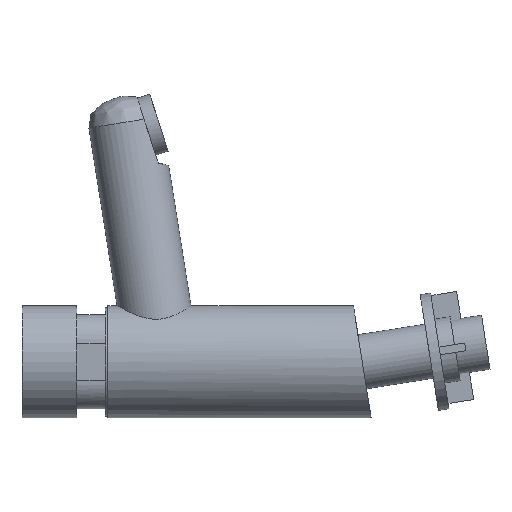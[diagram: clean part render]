
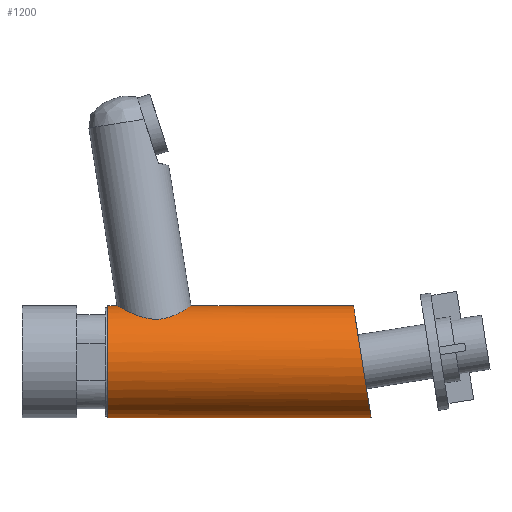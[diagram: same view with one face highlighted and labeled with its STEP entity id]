
A CAD part, left-side view. The second image highlights one B-rep face of the part: STEP entity #1200.
In plain terms, the highlighted cylindrical face has radius 21.5 mm (diameter 43 mm), a full revolution.
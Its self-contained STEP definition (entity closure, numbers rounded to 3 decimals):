
#22=FACE_BOUND('',#159,.T.);
#27=B_SPLINE_CURVE_WITH_KNOTS('',3,(#1923,#1924,#1925,#1926,#1927,#1928,
#1929,#1930,#1931,#1932,#1933,#1934,#1935,#1936,#1937,#1938,#1939,#1940,
#1941,#1942,#1943,#1944,#1945,#1946,#1947,#1948),.UNSPECIFIED.,.F.,.F.,
(4,2,2,2,2,2,2,2,2,2,2,2,4),(0.,0.291,0.583,1.165,
1.712,1.985,2.258,2.531,2.805,
3.351,3.934,4.225,4.516),
 .UNSPECIFIED.);
#28=B_SPLINE_CURVE_WITH_KNOTS('',3,(#1949,#1950,#1951,#1952,#1953,#1954,
#1955,#1956,#1957,#1958,#1959,#1960,#1961,#1962,#1963,#1964,#1965,#1966,
#1967,#1968,#1969,#1970,#1971,#1972,#1973,#1974),.UNSPECIFIED.,.F.,.F.,
(4,2,2,2,2,2,2,2,2,2,2,2,4),(4.516,4.786,5.056,
5.595,6.132,6.401,6.669,6.938,
7.206,7.744,8.283,8.553,8.822),
 .UNSPECIFIED.);
#36=ELLIPSE('',#1325,21.768,21.5);
#37=ELLIPSE('',#1326,21.768,21.5);
#48=CYLINDRICAL_SURFACE('',#1333,21.5);
#87=FACE_OUTER_BOUND('',#158,.T.);
#158=EDGE_LOOP('',(#901,#902,#903,#904,#905,#906));
#159=EDGE_LOOP('',(#907,#908));
#223=LINE('',#2087,#327);
#327=VECTOR('',#1569,21.5);
#445=CIRCLE('',#1334,21.5);
#446=CIRCLE('',#1335,21.5);
#503=VERTEX_POINT('',#1921);
#504=VERTEX_POINT('',#1922);
#512=VERTEX_POINT('',#1997);
#513=VERTEX_POINT('',#1998);
#517=VERTEX_POINT('',#2083);
#518=VERTEX_POINT('',#2084);
#639=EDGE_CURVE('',#503,#504,#27,.T.);
#640=EDGE_CURVE('',#504,#503,#28,.T.);
#652=EDGE_CURVE('',#512,#513,#36,.T.);
#653=EDGE_CURVE('',#513,#512,#37,.T.);
#660=EDGE_CURVE('',#517,#518,#445,.T.);
#661=EDGE_CURVE('',#518,#517,#446,.T.);
#662=EDGE_CURVE('',#518,#513,#223,.T.);
#901=ORIENTED_EDGE('',*,*,#660,.F.);
#902=ORIENTED_EDGE('',*,*,#661,.F.);
#903=ORIENTED_EDGE('',*,*,#662,.T.);
#904=ORIENTED_EDGE('',*,*,#653,.T.);
#905=ORIENTED_EDGE('',*,*,#652,.T.);
#906=ORIENTED_EDGE('',*,*,#662,.F.);
#907=ORIENTED_EDGE('',*,*,#639,.T.);
#908=ORIENTED_EDGE('',*,*,#640,.T.);
#1200=ADVANCED_FACE('',(#87,#22),#48,.T.);
#1325=AXIS2_PLACEMENT_3D('',#1999,#1543,#1544);
#1326=AXIS2_PLACEMENT_3D('',#2000,#1545,#1546);
#1333=AXIS2_PLACEMENT_3D('',#2082,#1563,#1564);
#1334=AXIS2_PLACEMENT_3D('',#2085,#1565,#1566);
#1335=AXIS2_PLACEMENT_3D('',#2086,#1567,#1568);
#1543=DIRECTION('center_axis',(0.,0.988,-0.156));
#1544=DIRECTION('ref_axis',(0.,0.156,0.988));
#1545=DIRECTION('center_axis',(0.,0.988,-0.156));
#1546=DIRECTION('ref_axis',(0.,0.156,0.988));
#1563=DIRECTION('center_axis',(0.,1.,0.));
#1564=DIRECTION('ref_axis',(-1.,0.,0.));
#1565=DIRECTION('center_axis',(0.,1.,0.));
#1566=DIRECTION('ref_axis',(-1.,0.,0.));
#1567=DIRECTION('center_axis',(0.,1.,0.));
#1568=DIRECTION('ref_axis',(-1.,0.,0.));
#1569=DIRECTION('',(0.,-1.,0.));
#1921=CARTESIAN_POINT('',(-14.,82.509,16.317));
#1922=CARTESIAN_POINT('',(14.,82.509,16.317));
#1923=CARTESIAN_POINT('Ctrl Pts',(-14.,82.509,16.317));
#1924=CARTESIAN_POINT('Ctrl Pts',(-14.,83.48,16.317));
#1925=CARTESIAN_POINT('Ctrl Pts',(-13.901,84.466,16.404));
#1926=CARTESIAN_POINT('Ctrl Pts',(-13.512,86.409,16.726));
#1927=CARTESIAN_POINT('Ctrl Pts',(-13.222,87.364,16.96));
#1928=CARTESIAN_POINT('Ctrl Pts',(-12.107,90.108,17.791));
#1929=CARTESIAN_POINT('Ctrl Pts',(-11.023,91.773,18.513));
#1930=CARTESIAN_POINT('Ctrl Pts',(-8.593,94.366,19.752));
#1931=CARTESIAN_POINT('Ctrl Pts',(-7.092,95.512,20.372));
#1932=CARTESIAN_POINT('Ctrl Pts',(-4.555,96.691,21.03));
#1933=CARTESIAN_POINT('Ctrl Pts',(-3.661,96.997,21.206));
#1934=CARTESIAN_POINT('Ctrl Pts',(-1.839,97.404,21.441));
#1935=CARTESIAN_POINT('Ctrl Pts',(-0.911,97.504,21.5));
#1936=CARTESIAN_POINT('Ctrl Pts',(0.911,97.504,21.5));
#1937=CARTESIAN_POINT('Ctrl Pts',(1.839,97.404,21.441));
#1938=CARTESIAN_POINT('Ctrl Pts',(3.661,96.997,21.206));
#1939=CARTESIAN_POINT('Ctrl Pts',(4.555,96.691,21.03));
#1940=CARTESIAN_POINT('Ctrl Pts',(7.092,95.512,20.372));
#1941=CARTESIAN_POINT('Ctrl Pts',(8.593,94.366,19.752));
#1942=CARTESIAN_POINT('Ctrl Pts',(11.023,91.773,18.513));
#1943=CARTESIAN_POINT('Ctrl Pts',(12.107,90.108,17.791));
#1944=CARTESIAN_POINT('Ctrl Pts',(13.222,87.364,16.96));
#1945=CARTESIAN_POINT('Ctrl Pts',(13.512,86.409,16.726));
#1946=CARTESIAN_POINT('Ctrl Pts',(13.901,84.466,16.404));
#1947=CARTESIAN_POINT('Ctrl Pts',(14.,83.48,16.317));
#1948=CARTESIAN_POINT('Ctrl Pts',(14.,82.509,16.317));
#1949=CARTESIAN_POINT('Ctrl Pts',(14.,82.509,16.317));
#1950=CARTESIAN_POINT('Ctrl Pts',(14.,81.61,16.317));
#1951=CARTESIAN_POINT('Ctrl Pts',(13.914,80.694,16.392));
#1952=CARTESIAN_POINT('Ctrl Pts',(13.555,78.9,16.691));
#1953=CARTESIAN_POINT('Ctrl Pts',(13.281,78.022,16.913));
#1954=CARTESIAN_POINT('Ctrl Pts',(12.205,75.535,17.723));
#1955=CARTESIAN_POINT('Ctrl Pts',(11.13,74.069,18.447));
#1956=CARTESIAN_POINT('Ctrl Pts',(8.674,71.784,19.721));
#1957=CARTESIAN_POINT('Ctrl Pts',(7.12,70.801,20.364));
#1958=CARTESIAN_POINT('Ctrl Pts',(4.54,69.814,21.034));
#1959=CARTESIAN_POINT('Ctrl Pts',(3.639,69.564,21.21));
#1960=CARTESIAN_POINT('Ctrl Pts',(1.816,69.235,21.443));
#1961=CARTESIAN_POINT('Ctrl Pts',(0.895,69.155,21.5));
#1962=CARTESIAN_POINT('Ctrl Pts',(-0.895,69.155,21.5));
#1963=CARTESIAN_POINT('Ctrl Pts',(-1.816,69.235,21.443));
#1964=CARTESIAN_POINT('Ctrl Pts',(-3.639,69.564,21.21));
#1965=CARTESIAN_POINT('Ctrl Pts',(-4.54,69.814,21.034));
#1966=CARTESIAN_POINT('Ctrl Pts',(-7.12,70.801,20.364));
#1967=CARTESIAN_POINT('Ctrl Pts',(-8.674,71.784,19.721));
#1968=CARTESIAN_POINT('Ctrl Pts',(-11.13,74.069,18.447));
#1969=CARTESIAN_POINT('Ctrl Pts',(-12.205,75.535,17.723));
#1970=CARTESIAN_POINT('Ctrl Pts',(-13.281,78.022,16.913));
#1971=CARTESIAN_POINT('Ctrl Pts',(-13.555,78.9,16.691));
#1972=CARTESIAN_POINT('Ctrl Pts',(-13.914,80.694,16.392));
#1973=CARTESIAN_POINT('Ctrl Pts',(-14.,81.61,16.317));
#1974=CARTESIAN_POINT('Ctrl Pts',(-14.,82.509,16.317));
#1997=CARTESIAN_POINT('',(0.,0.,-21.5));
#1998=CARTESIAN_POINT('',(21.5,3.405,0.));
#1999=CARTESIAN_POINT('Origin',(0.,3.405,0.));
#2000=CARTESIAN_POINT('Origin',(0.,3.405,0.));
#2082=CARTESIAN_POINT('Origin',(0.,0.,
0.));
#2083=CARTESIAN_POINT('',(-21.5,101.,0.));
#2084=CARTESIAN_POINT('',(21.5,101.,0.));
#2085=CARTESIAN_POINT('Origin',(0.,101.,0.));
#2086=CARTESIAN_POINT('Origin',(0.,101.,0.));
#2087=CARTESIAN_POINT('',(21.5,0.,0.));
